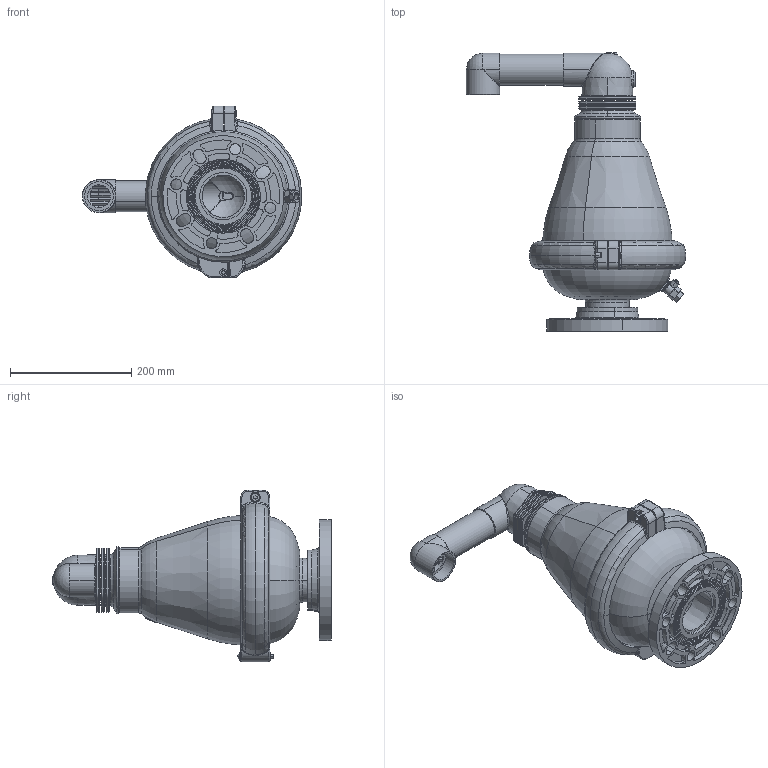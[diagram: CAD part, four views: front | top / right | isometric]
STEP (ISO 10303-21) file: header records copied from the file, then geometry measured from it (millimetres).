
FILE_DESCRIPTION (( 'STEP AP203' ), '1' );
FILE_NAME ('Assy_D-025_3.STEP', '2013-04-29T06:51:19', ( '' ), ( '' ), 'SwSTEP 2.0', 'SolidWorks 2012', '' );
FILE_SCHEMA (( 'CONFIG_CONTROL_DESIGN' ));
Length unit declared in the file: millimetre
Products named in the file (1): Assy_D-025_3
Bounding box: 362.44 x 460.8 x 284.09 mm (x, y, z)
Surface area: 453729.2 mm2 (no closed solid volume)
Topology: 0 solids, 21 shells, 798 faces, 2194 edges, 1412 vertices
Faces by surface type: cylinder 355, plane 167, torus 130, bspline 85, cone 52, sphere 9
Entity records: 30189 total; most frequent: CARTESIAN_POINT 10184, DIRECTION 4390, ORIENTED_EDGE 3999, EDGE_CURVE 2185, AXIS2_PLACEMENT_3D 1845, VERTEX_POINT 1412, CIRCLE 1131, EDGE_LOOP 875
